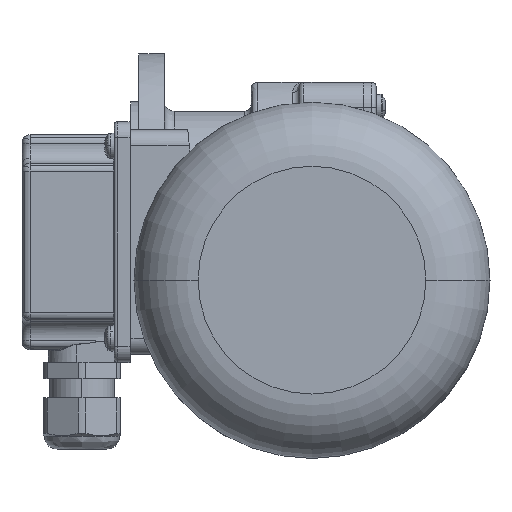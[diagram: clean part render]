
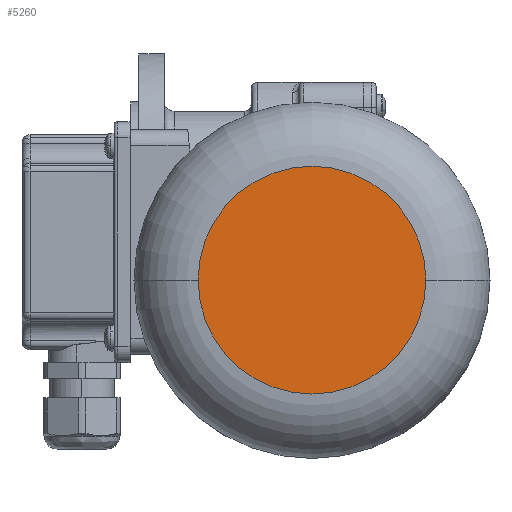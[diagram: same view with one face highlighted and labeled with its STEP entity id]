
A CAD part, top view. The second image highlights one B-rep face of the part: STEP entity #5260.
In plain terms, the highlighted planar face has unit normal (0, 0, 1) as drawn and (-1, 0, 0) by its records, which use the part's own axes.
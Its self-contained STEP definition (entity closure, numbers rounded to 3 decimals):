
#1445 = ORIENTED_EDGE ( 'NONE', *, *, #14423, .T. ) ;
#2268 = PLANE ( 'NONE',  #25321 ) ;
#3450 = DIRECTION ( 'NONE',  ( -1., 0., 0. ) ) ;
#3902 = DIRECTION ( 'NONE',  ( 0., 0., -1. ) ) ;
#4506 = DIRECTION ( 'NONE',  ( 1., 0., 0. ) ) ;
#5260 = ADVANCED_FACE ( 'NONE', ( #19272 ), #2268, .F. ) ;
#5588 = ORIENTED_EDGE ( 'NONE', *, *, #14192, .T. ) ;
#8238 = CARTESIAN_POINT ( 'NONE',  ( 0., 0., 35.5 ) ) ;
#9598 = CARTESIAN_POINT ( 'NONE',  ( 0., 0., 0. ) ) ;
#11346 = CARTESIAN_POINT ( 'NONE',  ( 0., 0., -35.5 ) ) ;
#14192 = EDGE_CURVE ( 'NONE', #15099, #23476, #22745, .T. ) ;
#14363 = CIRCLE ( 'NONE', #15254, 35.5 ) ;
#14423 = EDGE_CURVE ( 'NONE', #23476, #15099, #14363, .T. ) ;
#15099 = VERTEX_POINT ( 'NONE', #11346 ) ;
#15254 = AXIS2_PLACEMENT_3D ( 'NONE', #9598, #3450, #26820 ) ;
#16780 = DIRECTION ( 'NONE',  ( 0., 0., -1. ) ) ;
#17007 = AXIS2_PLACEMENT_3D ( 'NONE', #23076, #22949, #3902 ) ;
#19272 = FACE_OUTER_BOUND ( 'NONE', #27042, .T. ) ;
#22745 = CIRCLE ( 'NONE', #17007, 35.5 ) ;
#22949 = DIRECTION ( 'NONE',  ( -1., 0., 0. ) ) ;
#23076 = CARTESIAN_POINT ( 'NONE',  ( 0., 0., 0. ) ) ;
#23476 = VERTEX_POINT ( 'NONE', #8238 ) ;
#23556 = CARTESIAN_POINT ( 'NONE',  ( 0., 0., 0. ) ) ;
#25321 = AXIS2_PLACEMENT_3D ( 'NONE', #23556, #4506, #16780 ) ;
#26820 = DIRECTION ( 'NONE',  ( 0., 0., -1. ) ) ;
#27042 = EDGE_LOOP ( 'NONE', ( #5588, #1445 ) ) ;
